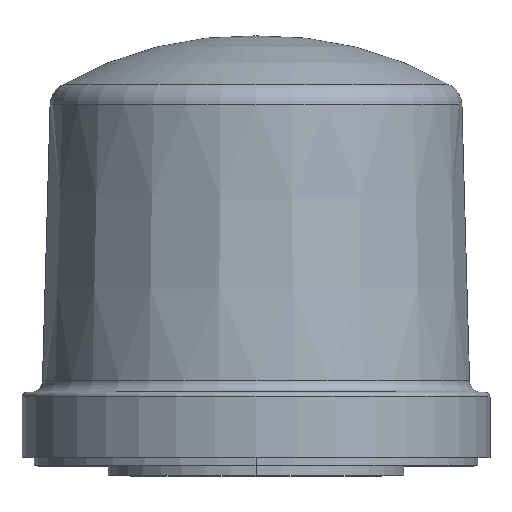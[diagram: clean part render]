
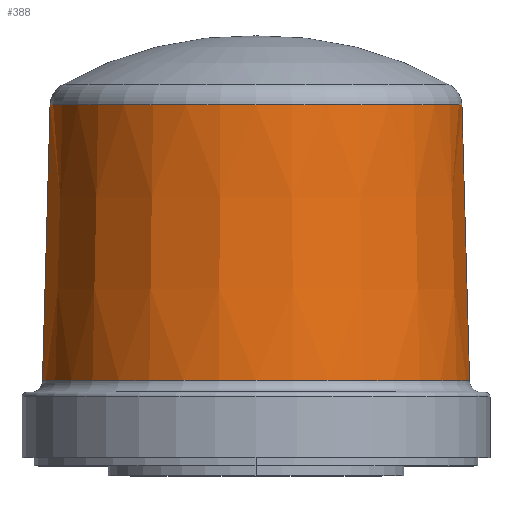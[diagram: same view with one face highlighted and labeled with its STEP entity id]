
A CAD part, top view. The second image highlights one B-rep face of the part: STEP entity #388.
In plain terms, the highlighted conical face has half-angle 1.579 degrees and reference radius 57.404 mm.
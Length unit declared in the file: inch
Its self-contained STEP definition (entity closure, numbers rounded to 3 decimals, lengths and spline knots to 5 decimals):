
#35 = LINE ( 'NONE', #370, #1259 ) ;
#67 = EDGE_CURVE ( 'NONE', #613, #1059, #1380, .T. ) ;
#312 = CARTESIAN_POINT ( 'NONE',  ( 2.25665, 1.00456, 0. ) ) ;
#329 = CONICAL_SURFACE ( 'NONE', #924, 2.26, 0.028 ) ;
#364 = CIRCLE ( 'NONE', #840, 2.17629 ) ;
#370 = CARTESIAN_POINT ( 'NONE',  ( -2.26, 0.883, 0. ) ) ;
#382 = DIRECTION ( 'NONE',  ( 0., 1., 0. ) ) ;
#386 = ORIENTED_EDGE ( 'NONE', *, *, #406, .T. ) ;
#387 = EDGE_CURVE ( 'NONE', #595, #613, #364, .T. ) ;
#388 = ADVANCED_FACE ( 'NONE', ( #1015 ), #329, .T. ) ;
#406 = EDGE_CURVE ( 'NONE', #595, #952, #35, .T. ) ;
#497 = CARTESIAN_POINT ( 'NONE',  ( 0., 0.883, 0. ) ) ;
#572 = CARTESIAN_POINT ( 'NONE',  ( 0., 1.00456, 0. ) ) ;
#595 = VERTEX_POINT ( 'NONE', #1045 ) ;
#613 = VERTEX_POINT ( 'NONE', #827 ) ;
#617 = DIRECTION ( 'NONE',  ( 1., 0., 0. ) ) ;
#675 = EDGE_CURVE ( 'NONE', #952, #1059, #960, .T. ) ;
#766 = CARTESIAN_POINT ( 'NONE',  ( 2.26, 0.883, 0. ) ) ;
#827 = CARTESIAN_POINT ( 'NONE',  ( 2.17629, 3.92043, 0. ) ) ;
#840 = AXIS2_PLACEMENT_3D ( 'NONE', #1351, #382, #1228 ) ;
#910 = DIRECTION ( 'NONE',  ( 0.028, -1., 0. ) ) ;
#924 = AXIS2_PLACEMENT_3D ( 'NONE', #497, #995, #617 ) ;
#952 = VERTEX_POINT ( 'NONE', #1469 ) ;
#960 = CIRCLE ( 'NONE', #1138, 2.25665 ) ;
#995 = DIRECTION ( 'NONE',  ( 0., -1., 0. ) ) ;
#1005 = ORIENTED_EDGE ( 'NONE', *, *, #675, .T. ) ;
#1015 = FACE_OUTER_BOUND ( 'NONE', #1119, .T. ) ;
#1045 = CARTESIAN_POINT ( 'NONE',  ( -2.17629, 3.92043, 0. ) ) ;
#1059 = VERTEX_POINT ( 'NONE', #312 ) ;
#1119 = EDGE_LOOP ( 'NONE', ( #1299, #386, #1005, #1523 ) ) ;
#1138 = AXIS2_PLACEMENT_3D ( 'NONE', #572, #1192, #1305 ) ;
#1192 = DIRECTION ( 'NONE',  ( 0., 1., 0. ) ) ;
#1228 = DIRECTION ( 'NONE',  ( -1., 0., 0. ) ) ;
#1259 = VECTOR ( 'NONE', #1329, 39.37008 ) ;
#1299 = ORIENTED_EDGE ( 'NONE', *, *, #387, .F. ) ;
#1305 = DIRECTION ( 'NONE',  ( 1., 0., 0. ) ) ;
#1329 = DIRECTION ( 'NONE',  ( -0.028, -1., 0. ) ) ;
#1342 = VECTOR ( 'NONE', #910, 39.37008 ) ;
#1351 = CARTESIAN_POINT ( 'NONE',  ( 0., 3.92043, 0. ) ) ;
#1380 = LINE ( 'NONE', #766, #1342 ) ;
#1469 = CARTESIAN_POINT ( 'NONE',  ( -2.25665, 1.00456, 0. ) ) ;
#1523 = ORIENTED_EDGE ( 'NONE', *, *, #67, .F. ) ;
